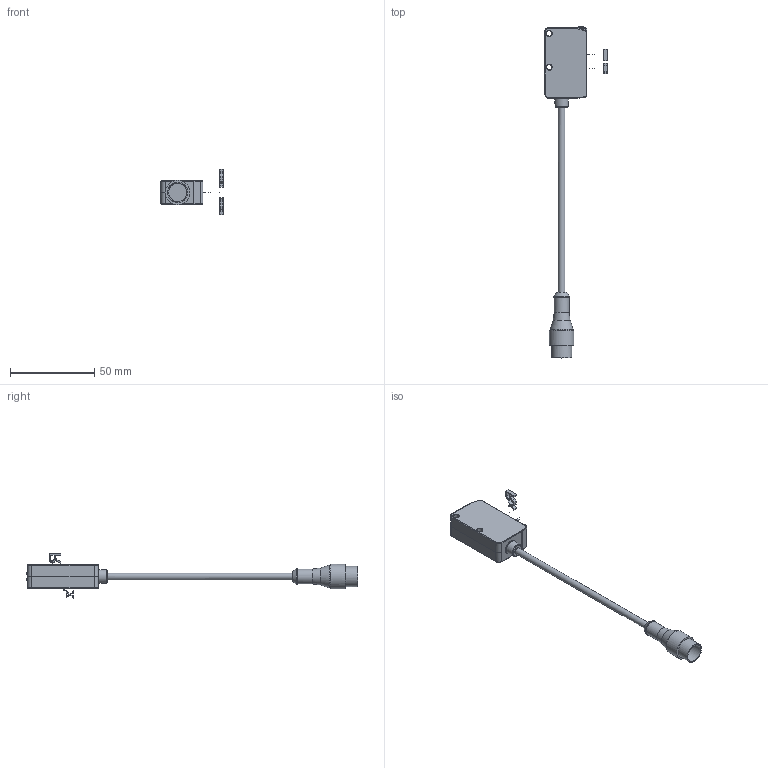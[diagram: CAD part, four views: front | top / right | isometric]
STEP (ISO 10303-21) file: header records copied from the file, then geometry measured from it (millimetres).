
FILE_DESCRIPTION(/* description */ (''),/* implementation_level */ '2;1');
FILE_NAME(/* name */ 'DSD-0204.stp',/* time_stamp */ '2020-09-23T14:06:41+02:00',/* author */ (''),/* organization */ (''),/* preprocessor_version */ 'ST-DEVELOPER v16.7',/* originating_system */ 'SIEMENS PLM Software NX 12.0',/* authorisation */ '');
FILE_SCHEMA (('AUTOMOTIVE_DESIGN { 1 0 10303 214 3 1 1 1 }'));
Length unit declared in the file: millimetre
Products named in the file (1): MBra179CE7913kg7
Bounding box: 37 x 196.8 x 26.68 mm (x, y, z)
Volume: 18916.2 mm3; surface area: 8181.1 mm2
Topology: 7 solids, 10 shells, 455 faces, 1136 edges, 708 vertices
Faces by surface type: bspline 454, plane 1
Entity records: 19607 total; most frequent: CARTESIAN_POINT 9559, ORIENTED_EDGE 2169, EDGE_CURVE 1087, B_SPLINE_CURVE_WITH_KNOTS 716, VERTEX_POINT 707, EDGE_LOOP 519, PRESENTATION_STYLE_ASSIGNMENT 461, SURFACE_STYLE_USAGE 461
